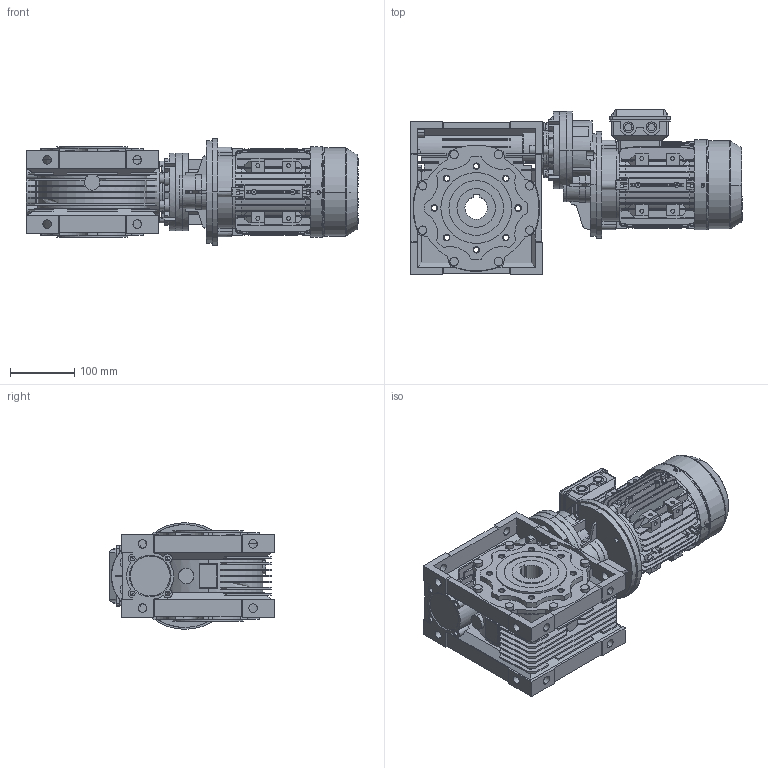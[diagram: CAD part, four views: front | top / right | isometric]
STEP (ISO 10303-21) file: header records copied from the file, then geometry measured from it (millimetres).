
FILE_DESCRIPTION (( 'STEP AP214' ), '1' );
FILE_NAME ('CMRV090_PC071_MX71.STEP', '2018-07-31T11:15:30', ( '' ), ( '' ), 'SwSTEP 2.0', 'SolidWorks 2012', '' );
FILE_SCHEMA (( 'AUTOMOTIVE_DESIGN' ));
Length unit declared in the file: millimetre
Products named in the file (22): CMRV090_B08_HW35; CMRV090_B08; PC071_MX71; MX71_B5; Lüfterhaube_MS71; L黤terfl黦el_MS71; Klemmkastenoberteil_MS71; Klemmenkastenunterteil_MS71; B5-Flansch_MS71; B-Lagerschild_MS71; Gehäuse_MS71L; PC071-A07_Ø19.LK100; -+-¨¢ÃÈ¦Í¨-À-¦Âñ M6í-14; -½¦¢Ë-ÀÔ 20í-35í-7_B1; PC71火怔; +_ÀÔ©Ã 22í-4; ã¢+³ 6í-6í-36; -ﾟ; -½¦¢Ë-ÀÔ 24í-47í-5_B1; 戌俓; PC71火耳; CMRV090_PC071_MX71
Assembly tree (25 placements, depth 4):
  CMRV090_PC071_MX71
    PC071_MX71
      PC071-A07_Ø19.LK100
        PC71火耳
        戌俓
        -½¦¢Ë-ÀÔ 24í-47í-5_B1
        -ﾟ
        ã¢+³ 6í-6í-36
        +_ÀÔ©Ã 22í-4
        PC71火怔
        -½¦¢Ë-ÀÔ 20í-35í-7_B1
        -+-¨¢ÃÈ¦Í¨-À-¦Âñ M6í-14  x5
      MX71_B5
        Gehäuse_MS71L
        B-Lagerschild_MS71
        B5-Flansch_MS71
        Klemmenkastenunterteil_MS71
        Klemmkastenoberteil_MS71
        L黤terfl黦el_MS71
        Lüfterhaube_MS71
    CMRV090_B08_HW35
      CMRV090_B08
Bounding box: 516.21 x 256 x 165.81 mm (x, y, z)
Volume: 1386164.7 mm3; surface area: 1199945 mm2
Topology: 20 solids, 30 shells, 3651 faces, 9950 edges, 6481 vertices
Faces by surface type: plane 1770, cylinder 1203, cone 502, bspline 176
Entity records: 129391 total; most frequent: CARTESIAN_POINT 32150, ORIENTED_EDGE 18315, DIRECTION 17642, EDGE_CURVE 9380, VERTEX_POINT 6169, AXIS2_PLACEMENT_3D 6163, LINE 5316, VECTOR 5316
